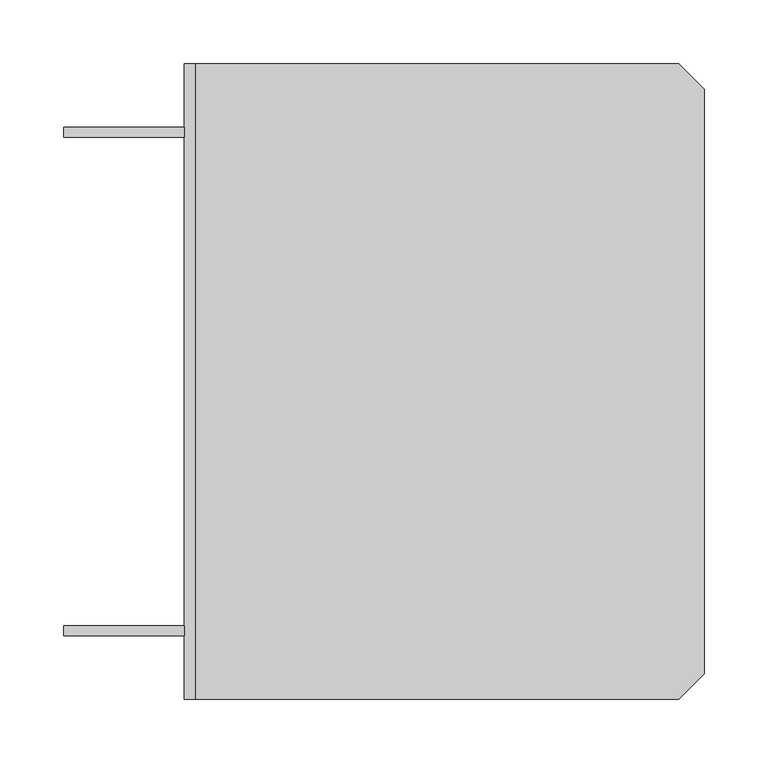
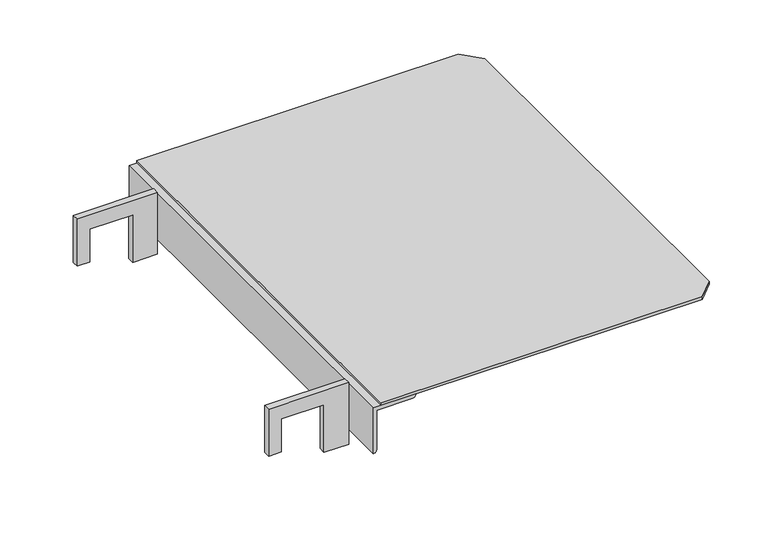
"""IFC4 building model written with IfcOpenShell, lengths in millimetres: proxy geometry, AK_補助布板HF-505_軽 : AK_補助布板HF-505_軽."""

from ifc_helpers import new_model, si_unit, point, frame, frame_2d, origin, place, context, project, spatial, polyline, circle_curve, trimmed, segment, composite_curve, outline, extrude, source, transform, mapped, element, save


def generic_models_93407514(model_context):
    return source(origin(), model_context, "Body", "SweptSolid", [
        extrude(outline(polyline([(39.5, -145.0), (-19.2539656, -145.0), (-19.2539656, -130.0), (22.0, -130.0), (22.0, -79.515185), (-37.4873278, -79.515185), (-37.4873278, -50.0), (39.5, -50.0), (39.5, -145.0)])), frame((0.0, -58.0, 0.0), z_axis=(0.0, 1.0, 0.0), x_axis=(0.0, 0.0, 1.0)), (0.0, 0.0, 1.0), 8.0),
        extrude(outline(polyline([(39.5, -145.0), (-19.2539656, -145.0), (-19.2539656, -130.0), (22.0, -130.0), (22.0, -79.515185), (-37.4873278, -79.515185), (-37.4873278, -50.0), (39.5, -50.0), (39.5, -145.0)])), frame((0.0, -450.0, 0.0), z_axis=(0.0, 1.0, 0.0), x_axis=(0.0, 0.0, 1.0)), (0.0, 0.0, 1.0), 8.0),
        extrude(outline(composite_curve([segment(polyline([(37.9, -50.0), (-19.2499, -50.0)]), True, "CONTINUOUS"), segment(trimmed(circle_curve(frame_2d((-15.2499, -50.0)), 4.0), [point((-19.2499, -50.0))], [point((-15.2499, -46.0))], False, "CARTESIAN"), True, "CONTINUOUS"), segment(polyline([(-15.2499, -46.0), (33.9, -46.0), (33.9, -4.0)]), True, "CONTINUOUS"), segment(trimmed(circle_curve(frame_2d((37.9, -4.0)), 4.0), [point((33.9, -4.0))], [point((37.9, 0.0))], False, "CARTESIAN"), True, "CONTINUOUS"), segment(polyline([(37.9, 0.0), (37.9, -50.0)]), True, "CONTINUOUS")], self_intersect=False)), frame((0.0, -500.0, 0.0), z_axis=(0.0, 1.0, 0.0), x_axis=(0.0, 0.0, 1.0)), (0.0, 0.0, 1.0), 500.0),
        extrude(outline(polyline([(-41.0, -500.0), (-41.0, 0.0), (339.0, 0.0), (359.0, -20.0), (359.0, -480.0), (339.0, -500.0), (-41.0, -500.0)])), frame((0.0, 0.0, 37.9), z_axis=(0.0, 0.0, 1.0), x_axis=(1.0, 0.0, 0.0)), (0.0, 0.0, 1.0), 3.2),
    ])


if __name__ == "__main__":
    model = new_model("IFC4")
    model_context = context("Model", 3, world=origin())
    ifc_project = project(units=[si_unit("LENGTHUNIT", "METRE", prefix="MILLI")], contexts=[model_context])
    site = spatial("IfcSite", under=ifc_project)
    building = spatial("IfcBuilding", under=site)
    placement = place(None, origin())
    generic_models_shape = generic_models_93407514(model_context)
    element("IfcBuildingElementProxy", 1, Name="AK_補助布板HF-505_軽 : AK_補助布板HF-505_軽", ObjectType="AK_補助布板HF-505_軽 : AK_補助布板HF-505_軽", at=placement, inside=building, context=model_context, shape_type="MappedRepresentation", body=[
        mapped(generic_models_shape, transform((0.0, 0.0, 0.0), x_axis=(1.0, 0.0, 0.0), y_axis=(0.0, 1.0, 0.0), z_axis=(0.0, 0.0, 1.0))),
    ])
    save(model, "model.ifc")
